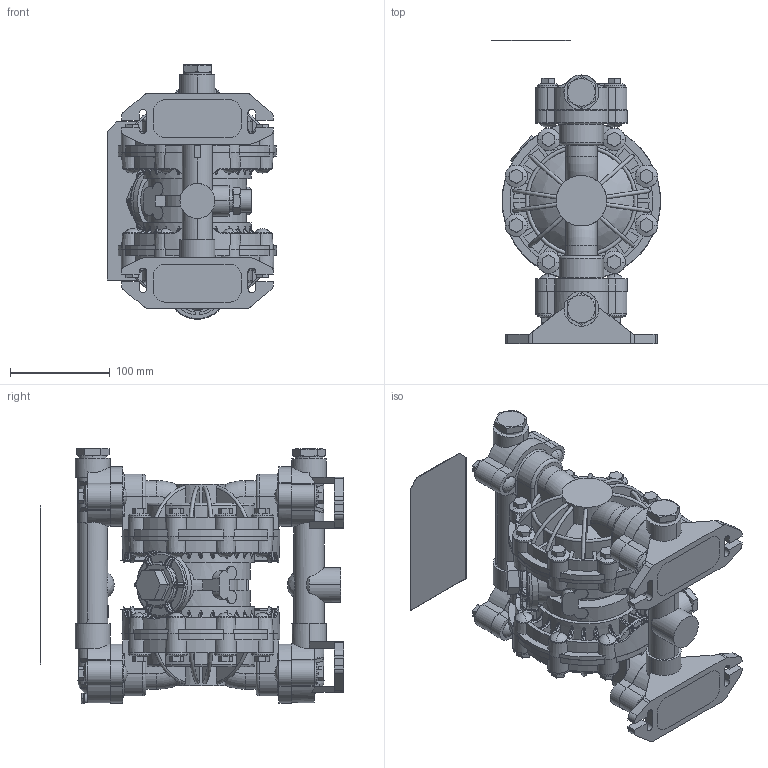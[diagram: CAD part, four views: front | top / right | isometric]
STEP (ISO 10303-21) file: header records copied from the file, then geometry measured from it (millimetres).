
FILE_DESCRIPTION((''),'2;1');
FILE_NAME('24N093-EN-C_PRT','2019-12-31T17:51:43',('qusrh3'),(''),'CREO PARAMETRIC BY PTC INC, 2019030','CREO PARAMETRIC BY PTC INC, 2019030','');
FILE_SCHEMA(('CONFIG_CONTROL_DESIGN'));
Products named in the file (1): 24N093-EN-C_PRT
Bounding box: 170.01 x 304.8 x 256.86 mm (x, y, z)
Surface area: 591153.7 mm2 (no closed solid volume)
Topology: 0 solids, 143 shells, 2759 faces, 8179 edges, 5400 vertices
Faces by surface type: plane 1118, cylinder 731, bspline 332, torus 286, sphere 175, cone 91, extrusion 26
Entity records: 109178 total; most frequent: CARTESIAN_POINT 37895, ORIENTED_EDGE 15188, DIRECTION 14536, EDGE_CURVE 8131, AXIS2_PLACEMENT_3D 5495, VERTEX_POINT 5400, VECTOR 3546, LINE 3520
